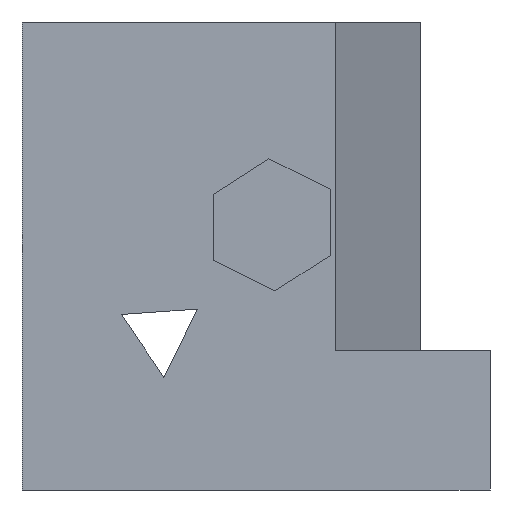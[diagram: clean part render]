
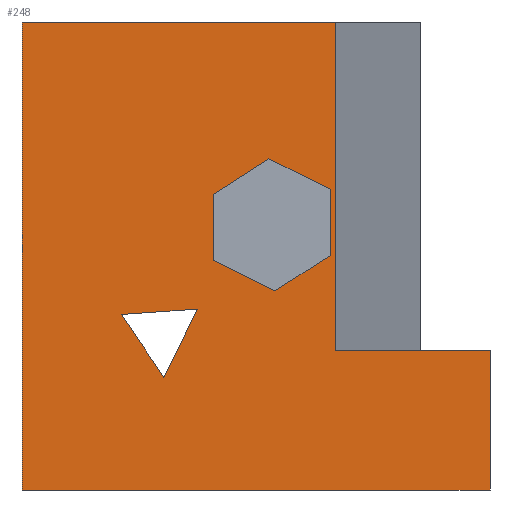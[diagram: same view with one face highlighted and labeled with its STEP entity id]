
A CAD part, left-side view. The second image highlights one B-rep face of the part: STEP entity #248.
In plain terms, the highlighted planar face has unit normal (-1, 0, 0).
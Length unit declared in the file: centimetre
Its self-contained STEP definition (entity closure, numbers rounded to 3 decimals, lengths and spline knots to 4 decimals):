
#2 = LINE ( 'NONE', #47, #738 ) ;
#16 = EDGE_CURVE ( 'NONE', #458, #260, #295, .T. ) ;
#19 = ORIENTED_EDGE ( 'NONE', *, *, #631, .F. ) ;
#26 = ORIENTED_EDGE ( 'NONE', *, *, #772, .F. ) ;
#32 = CARTESIAN_POINT ( 'NONE',  ( 0., 331.086, 297.3299 ) ) ;
#34 = DIRECTION ( 'NONE',  ( 0., -0.559, -0.829 ) ) ;
#36 = VECTOR ( 'NONE', #385, 100. ) ;
#38 = CARTESIAN_POINT ( 'NONE',  ( 0., 331.086, 297.3299 ) ) ;
#47 = CARTESIAN_POINT ( 'NONE',  ( 0., 625.5245, 386.4595 ) ) ;
#52 = LINE ( 'NONE', #501, #451 ) ;
#57 = CARTESIAN_POINT ( 'NONE',  ( 0., 1000., 1000. ) ) ;
#69 = DIRECTION ( 'NONE',  ( 0., 0., -1. ) ) ;
#97 = VERTEX_POINT ( 'NONE', #611 ) ;
#100 = EDGE_CURVE ( 'NONE', #781, #458, #671, .T. ) ;
#104 = PLANE ( 'NONE',  #704 ) ;
#112 = CARTESIAN_POINT ( 'NONE',  ( 0., 341.0466, 501.1613 ) ) ;
#113 = VERTEX_POINT ( 'NONE', #733 ) ;
#116 = CARTESIAN_POINT ( 'NONE',  ( 0., 591.7345, 631.5765 ) ) ;
#117 = CARTESIAN_POINT ( 'NONE',  ( 0., 331.086, 297.3299 ) ) ;
#123 = CARTESIAN_POINT ( 'NONE',  ( 0., 1000., 0. ) ) ;
#131 = ORIENTED_EDGE ( 'NONE', *, *, #139, .F. ) ;
#135 = ORIENTED_EDGE ( 'NONE', *, *, #668, .T. ) ;
#137 = EDGE_LOOP ( 'NONE', ( #784, #565, #721 ) ) ;
#139 = EDGE_CURVE ( 'NONE', #97, #535, #806, .T. ) ;
#141 = VERTEX_POINT ( 'NONE', #619 ) ;
#171 = LINE ( 'NONE', #759, #36 ) ;
#172 = DIRECTION ( 'NONE',  ( 0., 0., 1. ) ) ;
#185 = LINE ( 'NONE', #748, #778 ) ;
#195 = EDGE_CURVE ( 'NONE', #534, #141, #797, .T. ) ;
#201 = VECTOR ( 'NONE', #494, 100. ) ;
#204 = EDGE_CURVE ( 'NONE', #548, #214, #185, .T. ) ;
#212 = VECTOR ( 'NONE', #172, 100. ) ;
#214 = VERTEX_POINT ( 'NONE', #116 ) ;
#236 = LINE ( 'NONE', #569, #212 ) ;
#237 = ORIENTED_EDGE ( 'NONE', *, *, #433, .F. ) ;
#241 = CARTESIAN_POINT ( 'NONE',  ( 0., 460.19, 425.2141 ) ) ;
#248 = ADVANCED_FACE ( 'NONE', ( #734, #289, #484 ), #104, .F. ) ;
#258 = CARTESIAN_POINT ( 'NONE',  ( 0., 1000., 0. ) ) ;
#260 = VERTEX_POINT ( 'NONE', #546 ) ;
#264 = ORIENTED_EDGE ( 'NONE', *, *, #598, .F. ) ;
#265 = EDGE_CURVE ( 'NONE', #272, #141, #171, .T. ) ;
#272 = VERTEX_POINT ( 'NONE', #57 ) ;
#278 = CARTESIAN_POINT ( 'NONE',  ( 0., 341.0466, 642.3162 ) ) ;
#289 = FACE_BOUND ( 'NONE', #381, .T. ) ;
#293 = DIRECTION ( 'NONE',  ( 1., 0., 0. ) ) ;
#295 = LINE ( 'NONE', #415, #447 ) ;
#299 = VERTEX_POINT ( 'NONE', #258 ) ;
#312 = DIRECTION ( 'NONE',  ( 0., 0., -1. ) ) ;
#315 = DIRECTION ( 'NONE',  ( 0., -1., 0. ) ) ;
#316 = EDGE_CURVE ( 'NONE', #272, #299, #629, .T. ) ;
#324 = EDGE_LOOP ( 'NONE', ( #19, #329, #659, #369, #135, #237 ) ) ;
#329 = ORIENTED_EDGE ( 'NONE', *, *, #195, .T. ) ;
#339 = DIRECTION ( 'NONE',  ( 0., 0.896, 0.444 ) ) ;
#352 = LINE ( 'NONE', #278, #384 ) ;
#356 = DIRECTION ( 'NONE',  ( 0., 0., -1. ) ) ;
#361 = DIRECTION ( 'NONE',  ( 0., 0.998, -0.07 ) ) ;
#362 = DIRECTION ( 'NONE',  ( 0., -0.438, 0.899 ) ) ;
#364 = CARTESIAN_POINT ( 'NONE',  ( 0., 0., 297.3299 ) ) ;
#369 = ORIENTED_EDGE ( 'NONE', *, *, #316, .T. ) ;
#370 = DIRECTION ( 'NONE',  ( 0., -1., 0. ) ) ;
#378 = CARTESIAN_POINT ( 'NONE',  ( 0., 472.5911, 707.5238 ) ) ;
#380 = CARTESIAN_POINT ( 'NONE',  ( 0., 341.0466, 642.3162 ) ) ;
#381 = EDGE_LOOP ( 'NONE', ( #537, #750, #264, #26, #131, #393 ) ) ;
#384 = VECTOR ( 'NONE', #339, 100. ) ;
#385 = DIRECTION ( 'NONE',  ( 0., -1., 0. ) ) ;
#393 = ORIENTED_EDGE ( 'NONE', *, *, #483, .F. ) ;
#399 = VERTEX_POINT ( 'NONE', #380 ) ;
#406 = VECTOR ( 'NONE', #667, 100. ) ;
#415 = CARTESIAN_POINT ( 'NONE',  ( 0., 696.6357, 240.5992 ) ) ;
#433 = EDGE_CURVE ( 'NONE', #461, #113, #638, .T. ) ;
#447 = VECTOR ( 'NONE', #362, 100. ) ;
#451 = VECTOR ( 'NONE', #697, 100. ) ;
#458 = VERTEX_POINT ( 'NONE', #521 ) ;
#461 = VERTEX_POINT ( 'NONE', #364 ) ;
#464 = LINE ( 'NONE', #775, #466 ) ;
#466 = VECTOR ( 'NONE', #720, 100. ) ;
#475 = CARTESIAN_POINT ( 'NONE',  ( 0., 787.3989, 375.1135 ) ) ;
#483 = EDGE_CURVE ( 'NONE', #214, #97, #52, .T. ) ;
#484 = FACE_OUTER_BOUND ( 'NONE', #324, .T. ) ;
#490 = CARTESIAN_POINT ( 'NONE',  ( 0., 1000., 1000. ) ) ;
#493 = VECTOR ( 'NONE', #370, 100. ) ;
#494 = DIRECTION ( 'NONE',  ( 0., 0., 1. ) ) ;
#501 = CARTESIAN_POINT ( 'NONE',  ( 0., 591.7345, 631.5765 ) ) ;
#511 = EDGE_CURVE ( 'NONE', #260, #781, #2, .T. ) ;
#520 = VECTOR ( 'NONE', #69, 100. ) ;
#521 = CARTESIAN_POINT ( 'NONE',  ( 0., 696.6357, 240.5992 ) ) ;
#534 = VERTEX_POINT ( 'NONE', #117 ) ;
#535 = VERTEX_POINT ( 'NONE', #241 ) ;
#537 = ORIENTED_EDGE ( 'NONE', *, *, #204, .F. ) ;
#546 = CARTESIAN_POINT ( 'NONE',  ( 0., 625.5245, 386.4595 ) ) ;
#548 = VERTEX_POINT ( 'NONE', #378 ) ;
#553 = CARTESIAN_POINT ( 'NONE',  ( 0., 591.7345, 490.4217 ) ) ;
#561 = VERTEX_POINT ( 'NONE', #112 ) ;
#565 = ORIENTED_EDGE ( 'NONE', *, *, #16, .F. ) ;
#568 = CARTESIAN_POINT ( 'NONE',  ( 0., 1000., 1000. ) ) ;
#569 = CARTESIAN_POINT ( 'NONE',  ( 0., 341.0466, 501.1613 ) ) ;
#593 = CARTESIAN_POINT ( 'NONE',  ( 0., 787.3989, 375.1135 ) ) ;
#594 = VECTOR ( 'NONE', #315, 100. ) ;
#598 = EDGE_CURVE ( 'NONE', #561, #399, #236, .T. ) ;
#611 = CARTESIAN_POINT ( 'NONE',  ( 0., 591.7345, 490.4217 ) ) ;
#619 = CARTESIAN_POINT ( 'NONE',  ( 0., 331.086, 1000. ) ) ;
#623 = LINE ( 'NONE', #32, #493 ) ;
#629 = LINE ( 'NONE', #568, #801 ) ;
#631 = EDGE_CURVE ( 'NONE', #534, #461, #623, .T. ) ;
#633 = CARTESIAN_POINT ( 'NONE',  ( 0., 0., 1000. ) ) ;
#638 = LINE ( 'NONE', #633, #520 ) ;
#657 = VECTOR ( 'NONE', #34, 100. ) ;
#659 = ORIENTED_EDGE ( 'NONE', *, *, #265, .F. ) ;
#667 = DIRECTION ( 'NONE',  ( 0., -0.896, -0.444 ) ) ;
#668 = EDGE_CURVE ( 'NONE', #299, #113, #694, .T. ) ;
#671 = LINE ( 'NONE', #475, #657 ) ;
#682 = DIRECTION ( 'NONE',  ( 0., 0.843, -0.538 ) ) ;
#694 = LINE ( 'NONE', #123, #594 ) ;
#697 = DIRECTION ( 'NONE',  ( 0., 0., -1. ) ) ;
#704 = AXIS2_PLACEMENT_3D ( 'NONE', #490, #293, #356 ) ;
#720 = DIRECTION ( 'NONE',  ( 0., -0.843, 0.538 ) ) ;
#721 = ORIENTED_EDGE ( 'NONE', *, *, #100, .F. ) ;
#733 = CARTESIAN_POINT ( 'NONE',  ( 0., 0., 0. ) ) ;
#734 = FACE_BOUND ( 'NONE', #137, .T. ) ;
#736 = EDGE_CURVE ( 'NONE', #399, #548, #352, .T. ) ;
#738 = VECTOR ( 'NONE', #361, 100. ) ;
#748 = CARTESIAN_POINT ( 'NONE',  ( 0., 472.5911, 707.5238 ) ) ;
#750 = ORIENTED_EDGE ( 'NONE', *, *, #736, .F. ) ;
#759 = CARTESIAN_POINT ( 'NONE',  ( 0., 1000., 1000. ) ) ;
#772 = EDGE_CURVE ( 'NONE', #535, #561, #464, .T. ) ;
#775 = CARTESIAN_POINT ( 'NONE',  ( 0., 460.19, 425.2141 ) ) ;
#778 = VECTOR ( 'NONE', #682, 100. ) ;
#781 = VERTEX_POINT ( 'NONE', #593 ) ;
#784 = ORIENTED_EDGE ( 'NONE', *, *, #511, .F. ) ;
#797 = LINE ( 'NONE', #38, #201 ) ;
#801 = VECTOR ( 'NONE', #312, 100. ) ;
#806 = LINE ( 'NONE', #553, #406 ) ;
